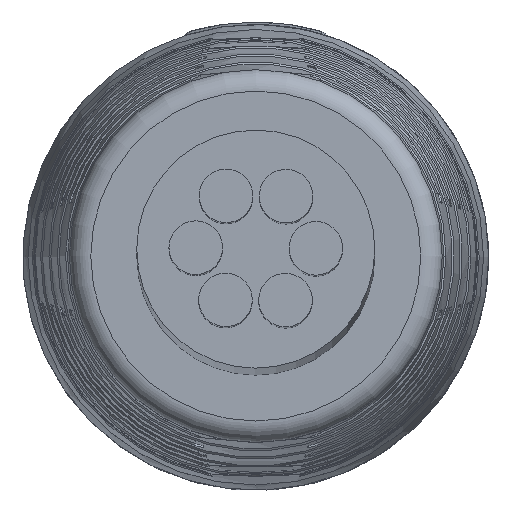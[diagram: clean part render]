
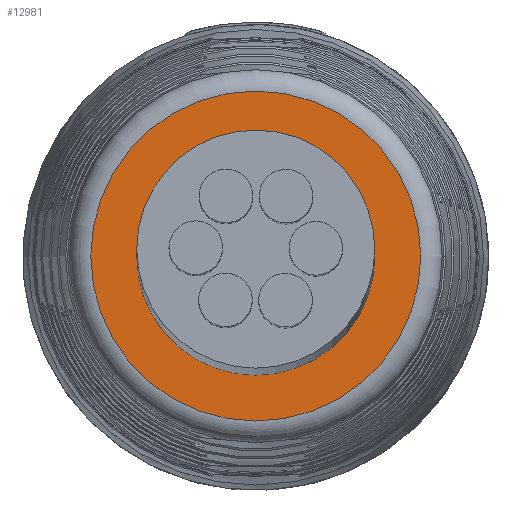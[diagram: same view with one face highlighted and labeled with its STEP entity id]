
A CAD part, top view. The second image highlights one B-rep face of the part: STEP entity #12981.
In plain terms, the highlighted planar face has unit normal (0, 0, 1).
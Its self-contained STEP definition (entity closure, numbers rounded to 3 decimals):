
#839 = VERTEX_POINT ( 'NONE', #8508 ) ;
#1558 = CIRCLE ( 'NONE', #3597, 7.692 ) ;
#2984 = CARTESIAN_POINT ( 'NONE',  ( 11.97, -7.483, -230.074 ) ) ;
#3597 = AXIS2_PLACEMENT_3D ( 'NONE', #22896, #23013, #15227 ) ;
#5299 = EDGE_CURVE ( 'NONE', #839, #839, #1558, .T. ) ;
#5480 = CARTESIAN_POINT ( 'NONE',  ( 6.42, -7.483, -230.074 ) ) ;
#7290 = PLANE ( 'NONE',  #15600 ) ;
#7552 = DIRECTION ( 'NONE',  ( 1., 0., 0. ) ) ;
#7686 = DIRECTION ( 'NONE',  ( 0., 0., 1. ) ) ;
#8150 = CIRCLE ( 'NONE', #9361, 5.55 ) ;
#8508 = CARTESIAN_POINT ( 'NONE',  ( 14.112, -7.483, -230.074 ) ) ;
#8837 = EDGE_CURVE ( 'NONE', #16466, #16466, #8150, .T. ) ;
#9361 = AXIS2_PLACEMENT_3D ( 'NONE', #24815, #17428, #13576 ) ;
#11582 = EDGE_LOOP ( 'NONE', ( #24840 ) ) ;
#12981 = ADVANCED_FACE ( 'NONE', ( #20980, #13571 ), #7290, .T. ) ;
#13571 = FACE_BOUND ( 'NONE', #11582, .T. ) ;
#13576 = DIRECTION ( 'NONE',  ( 1., 0., 0. ) ) ;
#15227 = DIRECTION ( 'NONE',  ( 1., 0., 0. ) ) ;
#15600 = AXIS2_PLACEMENT_3D ( 'NONE', #5480, #7686, #7552 ) ;
#16466 = VERTEX_POINT ( 'NONE', #2984 ) ;
#16617 = EDGE_LOOP ( 'NONE', ( #23122 ) ) ;
#17428 = DIRECTION ( 'NONE',  ( 0., 0., 1. ) ) ;
#20980 = FACE_OUTER_BOUND ( 'NONE', #16617, .T. ) ;
#22896 = CARTESIAN_POINT ( 'NONE',  ( 6.42, -7.483, -230.074 ) ) ;
#23013 = DIRECTION ( 'NONE',  ( 0., 0., 1. ) ) ;
#23122 = ORIENTED_EDGE ( 'NONE', *, *, #5299, .T. ) ;
#24815 = CARTESIAN_POINT ( 'NONE',  ( 6.42, -7.483, -230.074 ) ) ;
#24840 = ORIENTED_EDGE ( 'NONE', *, *, #8837, .F. ) ;
